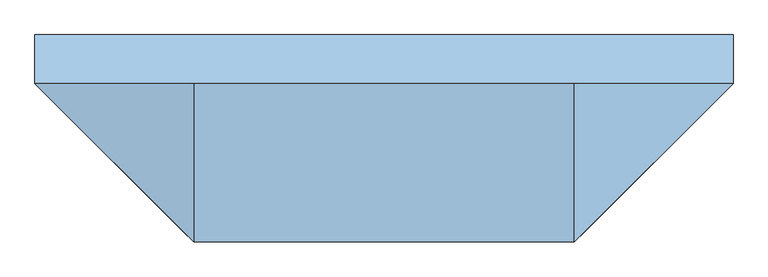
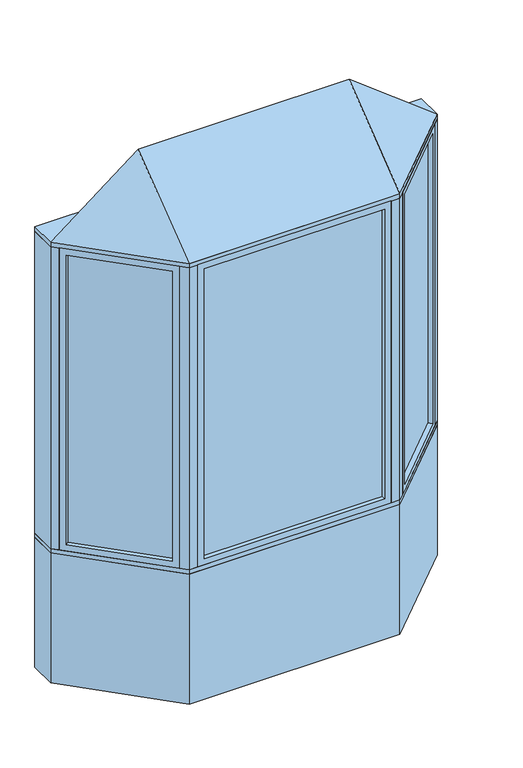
"""IFC4 building model written with IfcOpenShell, lengths in millimetres: window geometry, Pollard_Windows_Tudor Casement Bows and Bays : AML-BAY 45 AFR0518-12-600."""

from ifc_helpers import new_model, si_unit, frame, origin, origin_with_axes, place, context, project, spatial, polyline, outline, extrude, faceted_brep, source, transform, mapped, element, save


def window_c10b418e(model_context):
    return source(origin(), model_context, "Body", "SolidModel", [
        extrude(outline(polyline([(1024.0964271, -104.763169), (628.474814, -500.3847822), (624.8827115, -496.7926797), (1020.5043247, -101.1710666), (1024.0964271, -104.763169)])), frame((0.0, 0.0, 823.1628), z_axis=(0.0, 0.0, 1.0), x_axis=(1.0, 0.0, 0.0)), (0.0, 0.0, 1.0), 1753.6704),
        faceted_brep([(1015.116171, -113.7434252, 835.8628), (1033.0766833, -131.7039374, 835.8628), (1033.0766833, -131.7039374, 2564.1332), (1015.116171, -113.7434252, 2564.1332), (1020.5043247, -101.1710666, 823.1628), (1024.0964271, -104.763169, 823.1628), (1024.0964271, -104.763169, 2576.8332), (1020.5043247, -101.1710666, 2576.8332), (993.5635563, -92.1908105, 835.8628), (1011.5240686, -110.1513227, 835.8628), (1011.5240686, -110.1513227, 2564.1332), (993.5635563, -92.1908105, 2564.1332), (1058.4369265, -106.3436941, 799.998), (1018.9237996, -66.8305672, 799.998), (1018.9237996, -66.8305672, 2599.998), (1058.4369265, -106.3436941, 2599.998), (655.4155823, -509.3650383, 2564.1332), (637.4550701, -491.4045261, 2564.1332), (628.474814, -500.3847822, 2576.8332), (624.8827115, -496.7926797, 2576.8332), (633.8629677, -487.8124236, 2564.1332), (615.9024554, -469.8519114, 2564.1332), (590.5422121, -495.2121547, 2599.998), (630.0553391, -534.7252816, 2599.998), (655.4155823, -509.3650383, 835.8628), (637.4550701, -491.4045261, 835.8628), (628.474814, -500.3847822, 823.1628), (624.8827115, -496.7926797, 823.1628), (633.8629677, -487.8124236, 835.8628), (615.9024554, -469.8519114, 835.8628), (590.5422121, -495.2121547, 799.998), (630.0553391, -534.7252816, 799.998)], [[[0, 1, 2, 3]], [[4, 5, 6, 7]], [[8, 9, 10, 11]], [[12, 13, 14, 15]], [[3, 2, 16, 17]], [[7, 6, 18, 19]], [[11, 10, 20, 21]], [[15, 14, 22, 23]], [[17, 16, 24, 25]], [[19, 18, 26, 27]], [[21, 20, 28, 29]], [[23, 22, 30, 31]], [[25, 24, 1, 0]], [[5, 26, 18, 6], [3, 17, 25, 0]], [[27, 26, 5, 4]], [[7, 19, 27, 4], [9, 28, 20, 10]], [[29, 28, 9, 8]], [[13, 30, 22, 14], [11, 21, 29, 8]], [[31, 30, 13, 12]], [[15, 23, 31, 12], [1, 24, 16, 2]]]),
        extrude(outline(polyline([(-628.474814, -500.3847822), (-1024.0964271, -104.763169), (-1020.5043247, -101.1710666), (-624.8827115, -496.7926797), (-628.474814, -500.3847822)])), frame((0.0, 0.0, 823.1628), z_axis=(0.0, 0.0, 1.0), x_axis=(1.0, 0.0, 0.0)), (0.0, 0.0, 1.0), 1753.6704),
        faceted_brep([(-633.8629677, -487.8124236, 2564.1332), (-615.9024554, -469.8519114, 2564.1332), (-615.9024554, -469.8519114, 835.8628), (-633.8629677, -487.8124236, 835.8628), (-628.474814, -500.3847822, 2576.8332), (-624.8827115, -496.7926797, 2576.8332), (-624.8827115, -496.7926797, 823.1628), (-628.474814, -500.3847822, 823.1628), (-655.4155823, -509.3650383, 2564.1332), (-637.4550701, -491.4045261, 2564.1332), (-637.4550701, -491.4045261, 835.8628), (-655.4155823, -509.3650383, 835.8628), (-590.5422121, -495.2121547, 2599.998), (-630.0553391, -534.7252816, 2599.998), (-630.0553391, -534.7252816, 799.998), (-590.5422121, -495.2121547, 799.998), (-993.5635563, -92.1908105, 835.8628), (-1011.5240686, -110.1513227, 835.8628), (-1020.5043247, -101.1710666, 823.1628), (-1024.0964271, -104.763169, 823.1628), (-1015.116171, -113.7434252, 835.8628), (-1033.0766833, -131.7039374, 835.8628), (-1058.4369265, -106.3436941, 799.998), (-1018.9237996, -66.8305672, 799.998), (-993.5635563, -92.1908105, 2564.1332), (-1011.5240686, -110.1513227, 2564.1332), (-1020.5043247, -101.1710666, 2576.8332), (-1024.0964271, -104.763169, 2576.8332), (-1015.116171, -113.7434252, 2564.1332), (-1033.0766833, -131.7039374, 2564.1332), (-1058.4369265, -106.3436941, 2599.998), (-1018.9237996, -66.8305672, 2599.998)], [[[0, 1, 2, 3]], [[4, 5, 6, 7]], [[8, 9, 10, 11]], [[12, 13, 14, 15]], [[3, 2, 16, 17]], [[7, 6, 18, 19]], [[11, 10, 20, 21]], [[15, 14, 22, 23]], [[17, 16, 24, 25]], [[19, 18, 26, 27]], [[21, 20, 28, 29]], [[23, 22, 30, 31]], [[15, 23, 31, 12], [1, 24, 16, 2]], [[25, 24, 1, 0]], [[5, 26, 18, 6], [3, 17, 25, 0]], [[27, 26, 5, 4]], [[7, 19, 27, 4], [9, 28, 20, 10]], [[29, 28, 9, 8]], [[13, 30, 22, 14], [11, 21, 29, 8]], [[31, 30, 13, 12]]]),
        extrude(outline(polyline([(521.5352, -544.6806207), (-521.5352, -544.6806207), (-521.5352, -539.6006207), (521.5352, -539.6006207), (521.5352, -544.6806207)])), frame((0.0, 0.0, 823.1628), z_axis=(0.0, 0.0, 1.0), x_axis=(1.0, 0.0, 0.0)), (0.0, 0.0, 1.0), 1753.6704),
        faceted_brep([(508.8352, -544.6806207, 835.8628), (508.8352, -570.0806207, 835.8628), (508.8352, -570.0806207, 2564.1332), (508.8352, -544.6806207, 2564.1332), (521.5352, -539.6006207, 823.1628), (521.5352, -544.6806207, 823.1628), (521.5352, -544.6806207, 2576.8332), (521.5352, -539.6006207, 2576.8332), (508.8352, -514.2006207, 835.8628), (508.8352, -539.6006207, 835.8628), (508.8352, -539.6006207, 2564.1332), (508.8352, -514.2006207, 2564.1332), (544.7, -570.0806207, 799.998), (544.7, -514.2006207, 799.998), (544.7, -514.2006207, 2599.998), (544.7, -570.0806207, 2599.998), (-508.8352, -570.0806207, 2564.1332), (-508.8352, -544.6806207, 2564.1332), (-521.5352, -544.6806207, 2576.8332), (-521.5352, -539.6006207, 2576.8332), (-508.8352, -539.6006207, 2564.1332), (-508.8352, -514.2006207, 2564.1332), (-544.7, -514.2006207, 2599.998), (-544.7, -570.0806207, 2599.998), (-508.8352, -570.0806207, 835.8628), (-508.8352, -544.6806207, 835.8628), (-521.5352, -544.6806207, 823.1628), (-521.5352, -539.6006207, 823.1628), (-508.8352, -539.6006207, 835.8628), (-508.8352, -514.2006207, 835.8628), (-544.7, -514.2006207, 799.998), (-544.7, -570.0806207, 799.998)], [[[0, 1, 2, 3]], [[4, 5, 6, 7]], [[8, 9, 10, 11]], [[12, 13, 14, 15]], [[3, 2, 16, 17]], [[7, 6, 18, 19]], [[11, 10, 20, 21]], [[15, 14, 22, 23]], [[17, 16, 24, 25]], [[19, 18, 26, 27]], [[21, 20, 28, 29]], [[23, 22, 30, 31]], [[15, 23, 31, 12], [1, 24, 16, 2]], [[25, 24, 1, 0]], [[5, 26, 18, 6], [3, 17, 25, 0]], [[27, 26, 5, 4]], [[7, 19, 27, 4], [9, 28, 20, 10]], [[29, 28, 9, 8]], [[13, 30, 22, 14], [11, 21, 29, 8]], [[31, 30, 13, 12]]]),
        faceted_brep([(1090.0, -74.7806207, 2625.398), (594.7, -570.0806207, 2625.398), (-594.7, -570.0806207, 2625.398), (-1090.0, -74.7806207, 2625.398), (-594.7, -74.7806207, 3006.398), (594.7, -74.7806207, 3006.398)], [[[0, 1, 2, 3]], [[3, 2, 4]], [[2, 1, 5, 4]], [[1, 0, 5]], [[0, 3, 4, 5]]]),
        extrude(outline(polyline([(-1090.0, 77.6193793), (1090.0, 77.6193793), (1090.0, -74.7806207), (594.7, -570.0806207), (-594.7, -570.0806207), (-1090.0, -74.7806207), (-1090.0, 77.6193793)])), frame((0.0, 0.0, 2599.998), z_axis=(0.0, 0.0, 1.0), x_axis=(1.0, 0.0, 0.0)), (0.0, 0.0, 1.0), 25.4),
        extrude(outline(polyline([(-1090.0, -74.7806207), (-1090.0, 77.6193793), (-1026.8738531, 77.6193793), (-1026.8738531, -74.7806207), (-1058.4369265, -106.3436941), (-1090.0, -74.7806207)])), frame((0.0, 0.0, 799.998), z_axis=(0.0, 0.0, 1.0), x_axis=(1.0, 0.0, 0.0)), (0.0, 0.0, 1.0), 1800.0),
        extrude(outline(polyline([(1090.0, 77.6193793), (1090.0, -74.7806207), (1058.4369265, -106.3436941), (1026.8738531, -74.7806207), (1026.8738531, 77.6193793), (1090.0, 77.6193793)])), frame((0.0, 0.0, 799.998), z_axis=(0.0, 0.0, 1.0), x_axis=(1.0, 0.0, 0.0)), (0.0, 0.0, 1.0), 1800.0),
        extrude(outline(polyline([(594.7, -570.0806207), (544.7, -570.0806207), (544.7, -520.0806207), (573.9893219, -520.0806207), (594.7, -499.3699425), (630.0553391, -534.7252816), (594.7, -570.0806207)])), frame((0.0, 0.0, 799.998), z_axis=(0.0, 0.0, 1.0), x_axis=(1.0, 0.0, 0.0)), (0.0, 0.0, 1.0), 1800.0),
        extrude(outline(polyline([(-594.7, -570.0806207), (-630.0553391, -534.7252816), (-594.7, -499.3699425), (-573.9893219, -520.0806207), (-544.7, -520.0806207), (-544.7, -570.0806207), (-594.7, -570.0806207)])), frame((0.0, 0.0, 799.998), z_axis=(0.0, 0.0, 1.0), x_axis=(1.0, 0.0, 0.0)), (0.0, 0.0, 1.0), 1800.0),
        extrude(outline(polyline([(-594.7, -570.0806207), (-1090.0, -74.7806207), (-1090.0, 77.6193793), (-1026.8738531, 77.6193793), (-531.5738531, -417.6806207), (531.5738531, -417.6806207), (1026.8738531, 77.6193793), (1090.0, 77.6193793), (1090.0, -74.7806207), (594.7, -570.0806207), (-594.7, -570.0806207)])), frame((0.0, 0.0, 774.598), z_axis=(0.0, 0.0, 1.0), x_axis=(1.0, 0.0, 0.0)), (0.0, 0.0, 1.0), 25.4),
        extrude(outline(polyline([(-1090.0, -74.7806207), (-1090.0, 77.6193793), (-1026.8738531, 77.6193793), (-531.5738531, -417.6806207), (531.5738531, -417.6806207), (1026.8738531, 77.6193793), (1090.0, 77.6193793), (1090.0, -74.7806207), (594.7, -570.0806207), (-594.7, -570.0806207), (-1090.0, -74.7806207)])), origin_with_axes(), (0.0, 0.0, 1.0), 774.598),
    ])


if __name__ == "__main__":
    model = new_model("IFC4")
    model_context = context("Model", 3, world=origin())
    ifc_project = project(units=[si_unit("LENGTHUNIT", "METRE", prefix="MILLI")], contexts=[model_context])
    site = spatial("IfcSite", under=ifc_project)
    building = spatial("IfcBuilding", under=site)
    placement = place(None, origin())
    window_shape = window_c10b418e(model_context)
    element("IfcWindow", 1, ObjectType="Pollard_Windows_Tudor Casement Bows and Bays : AML-BAY 45 AFR0518-12-600", at=placement, inside=building, context=model_context, shape_type="MappedRepresentation", body=[
        mapped(window_shape, transform((0.0, 0.0, 0.0), x_axis=(1.0, 0.0, 0.0), y_axis=(0.0, 1.0, 0.0), z_axis=(0.0, 0.0, 1.0))),
    ])
    save(model, "model.ifc")
